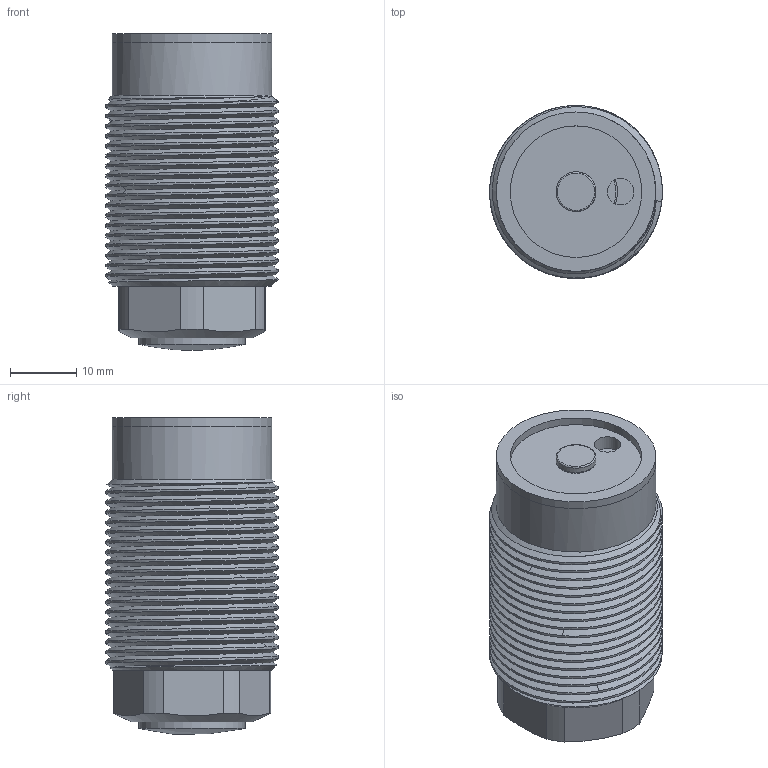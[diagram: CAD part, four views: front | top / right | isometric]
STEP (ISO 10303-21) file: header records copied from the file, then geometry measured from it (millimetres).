
FILE_DESCRIPTION(/* description */ (''),/* implementation_level */ '2;1');
FILE_NAME(/* name */ 'CTC-16A.stp',/* time_stamp */ '2022-04-28T11:01:40+08:00',/* author */ (''),/* organization */ (''),/* preprocessor_version */ 'ST-DEVELOPER v16.7',/* originating_system */ 'SIEMENS PLM Software NX 12.0',/* authorisation */ '');
FILE_SCHEMA (('AUTOMOTIVE_DESIGN { 1 0 10303 214 3 1 1 1 }'));
Length unit declared in the file: millimetre
Products named in the file (1): CTC-16A
Bounding box: 26 x 26 x 47.69 mm (x, y, z)
Volume: 17192.9 mm3; surface area: 14304.3 mm2
Topology: 5 solids, 5 shells, 260 faces, 677 edges, 452 vertices
Faces by surface type: plane 162, extrusion 51, cylinder 28, bspline 12, cone 4, torus 2, sphere 1
Full cylindrical faces by diameter (mm): 4 x3, 6 x1, 7 x1, 12 x1, 12.5 x1, 15 x1, 16 x2, 18.7 x1, 19.2 x1, 19.8 x1, 20.2 x1, 20.6 x1, 24 x2
Entity records: 13991 total; most frequent: CARTESIAN_POINT 6592, ORIENTED_EDGE 1294, DIRECTION 1006, EDGE_CURVE 647, VECTOR 496, LINE 445, VERTEX_POINT 445, EDGE_LOOP 314
